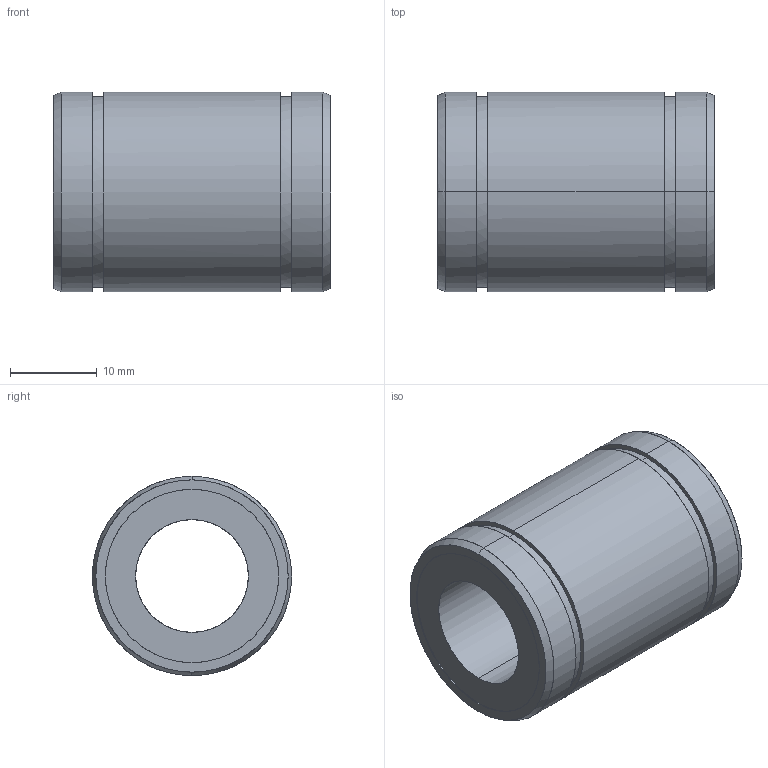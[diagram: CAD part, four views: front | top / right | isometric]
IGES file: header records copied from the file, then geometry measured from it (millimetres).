
Global section: file name: No Iges File Name specified; native system: AutoDesk Inventor R10; preprocessor: AutoDesk Inventor Iges Exporter R10; author: No Author specified; organization: No Organization specified; date: 20101208.094850; units: millimetre
Bounding box: 32 x 23 x 23 mm (x, y, z)
Surface area: 4275.3 mm2 (no closed solid volume)
Topology: 0 solids, 0 shells, 28 faces, 184 edges, 184 vertices
Faces by surface type: bspline 28
